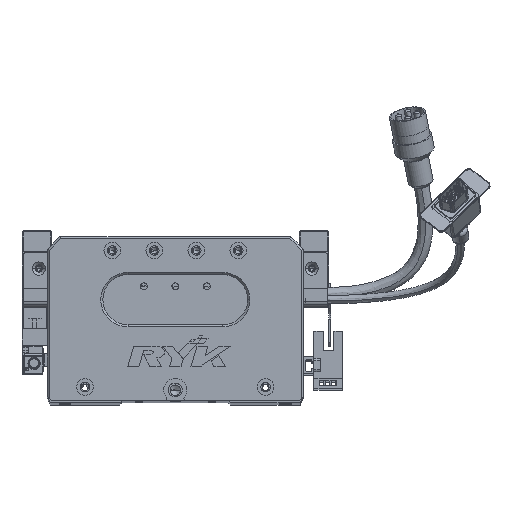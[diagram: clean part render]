
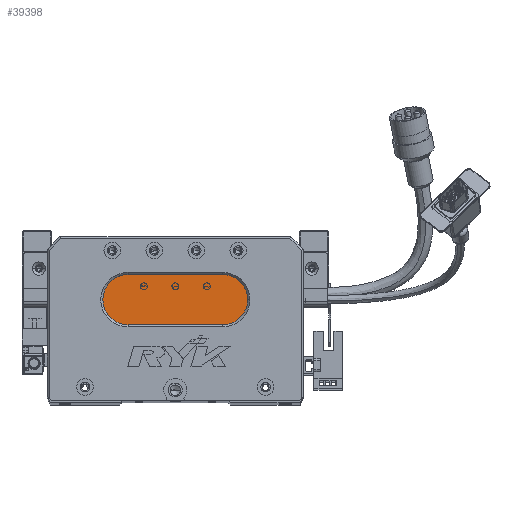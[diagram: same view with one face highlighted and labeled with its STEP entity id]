
A CAD part, top view. The second image highlights one B-rep face of the part: STEP entity #39398.
In plain terms, the highlighted planar face has unit normal (0, 0, 1) as drawn and (0, 0, -1) by its records, which use the part's own axes.
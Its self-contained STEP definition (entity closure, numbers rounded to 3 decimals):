
#697 = LINE ( 'NONE', #44829, #24810 ) ;
#1268 = VERTEX_POINT ( 'NONE', #67773 ) ;
#2153 = CIRCLE ( 'NONE', #64051, 12. ) ;
#4149 = DIRECTION ( 'NONE',  ( -1., 0., 0. ) ) ;
#5396 = AXIS2_PLACEMENT_3D ( 'NONE', #16603, #21335, #4149 ) ;
#5733 = CARTESIAN_POINT ( 'NONE',  ( 38.5, 48., 13. ) ) ;
#6504 = EDGE_CURVE ( 'NONE', #56721, #1268, #65504, .T. ) ;
#7337 = EDGE_CURVE ( 'NONE', #1268, #10268, #29718, .T. ) ;
#8305 = CIRCLE ( 'NONE', #5396, 12. ) ;
#9630 = DIRECTION ( 'NONE',  ( 0., 0., -1. ) ) ;
#10268 = VERTEX_POINT ( 'NONE', #67398 ) ;
#11307 = ORIENTED_EDGE ( 'NONE', *, *, #62796, .T. ) ;
#11899 = EDGE_CURVE ( 'NONE', #61504, #49140, #697, .T. ) ;
#13696 = ORIENTED_EDGE ( 'NONE', *, *, #7337, .T. ) ;
#16603 = CARTESIAN_POINT ( 'NONE',  ( 38.5, 48., 13. ) ) ;
#18280 = VECTOR ( 'NONE', #49978, 1000. ) ;
#21335 = DIRECTION ( 'NONE',  ( 0., 0., -1. ) ) ;
#24810 = VECTOR ( 'NONE', #38374, 1000. ) ;
#27053 = ORIENTED_EDGE ( 'NONE', *, *, #11899, .T. ) ;
#29699 = AXIS2_PLACEMENT_3D ( 'NONE', #35680, #69595, #64064 ) ;
#29718 = CIRCLE ( 'NONE', #69923, 12. ) ;
#30805 = CARTESIAN_POINT ( 'NONE',  ( 83.5, 36., 13. ) ) ;
#35680 = CARTESIAN_POINT ( 'NONE',  ( 83.5, 48., 13. ) ) ;
#38374 = DIRECTION ( 'NONE',  ( 1., 0., 0. ) ) ;
#38566 = EDGE_CURVE ( 'NONE', #49140, #56721, #2153, .T. ) ;
#38783 = DIRECTION ( 'NONE',  ( -1., 0., 0. ) ) ;
#39398 = ADVANCED_FACE ( 'NONE', ( #51083 ), #46653, .T. ) ;
#40560 = DIRECTION ( 'NONE',  ( -1., 0., 0. ) ) ;
#44829 = CARTESIAN_POINT ( 'NONE',  ( 83.5, 60., 13. ) ) ;
#45595 = DIRECTION ( 'NONE',  ( 0., 0., -1. ) ) ;
#46414 = CARTESIAN_POINT ( 'NONE',  ( 83.5, 60., 13. ) ) ;
#46653 = PLANE ( 'NONE',  #29699 ) ;
#47617 = CARTESIAN_POINT ( 'NONE',  ( 38.5, 60., 13. ) ) ;
#49140 = VERTEX_POINT ( 'NONE', #46414 ) ;
#49978 = DIRECTION ( 'NONE',  ( -1., 0., 0. ) ) ;
#51083 = FACE_OUTER_BOUND ( 'NONE', #54579, .T. ) ;
#51397 = ORIENTED_EDGE ( 'NONE', *, *, #38566, .T. ) ;
#54579 = EDGE_LOOP ( 'NONE', ( #51397, #61301, #13696, #11307, #27053 ) ) ;
#56721 = VERTEX_POINT ( 'NONE', #30805 ) ;
#61301 = ORIENTED_EDGE ( 'NONE', *, *, #6504, .T. ) ;
#61504 = VERTEX_POINT ( 'NONE', #47617 ) ;
#62796 = EDGE_CURVE ( 'NONE', #10268, #61504, #8305, .T. ) ;
#64051 = AXIS2_PLACEMENT_3D ( 'NONE', #72937, #9630, #38783 ) ;
#64064 = DIRECTION ( 'NONE',  ( -1., 0., 0. ) ) ;
#65504 = LINE ( 'NONE', #66903, #18280 ) ;
#66903 = CARTESIAN_POINT ( 'NONE',  ( 83.5, 36., 13. ) ) ;
#67398 = CARTESIAN_POINT ( 'NONE',  ( 26.5, 48., 13. ) ) ;
#67773 = CARTESIAN_POINT ( 'NONE',  ( 38.5, 36., 13. ) ) ;
#69595 = DIRECTION ( 'NONE',  ( 0., 0., -1. ) ) ;
#69923 = AXIS2_PLACEMENT_3D ( 'NONE', #5733, #45595, #40560 ) ;
#72937 = CARTESIAN_POINT ( 'NONE',  ( 83.5, 48., 13. ) ) ;
